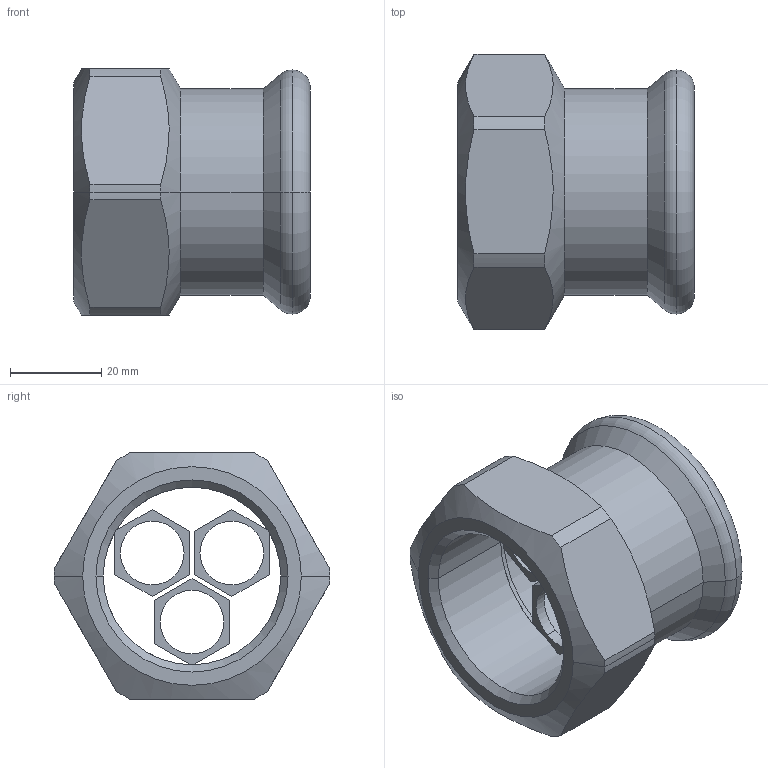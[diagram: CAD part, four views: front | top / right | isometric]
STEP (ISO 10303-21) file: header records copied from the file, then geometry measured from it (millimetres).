
FILE_DESCRIPTION(('OneSpaceDesigner STEP Export'),'2;1');
FILE_NAME('R2702 42xRp1 1-4.stp','2010-06-08T15:40:31',(''),(''),'OneSpace Designer STEP processor for AP214 (Solid Model)','OneSpace Modeling 15.00A 14-Mar-2007 (C) CoCreate Software GmbH','');
FILE_SCHEMA(('AUTOMOTIVE_DESIGN { 1 0 10303 214 1 1 1 1 }'));
Length unit declared in the file: millimetre
Products named in the file (2): R2702_42xRp5-4
Assembly tree (1 placements, depth 2):
  R2702_42xRp5-4
    R2702_42xRp5-4
Bounding box: 52 x 60.5 x 54 mm (x, y, z)
Volume: 38942.2 mm3; surface area: 18807.7 mm2
Topology: 1 solids, 1 shells, 82 faces, 216 edges, 137 vertices
Faces by surface type: plane 36, cylinder 27, cone 15, torus 4
Entity records: 3169 total; most frequent: CARTESIAN_POINT 1362, ORIENTED_EDGE 432, DIRECTION 281, EDGE_CURVE 216, VERTEX_POINT 137, VECTOR 117, LINE 117, EDGE_LOOP 91
